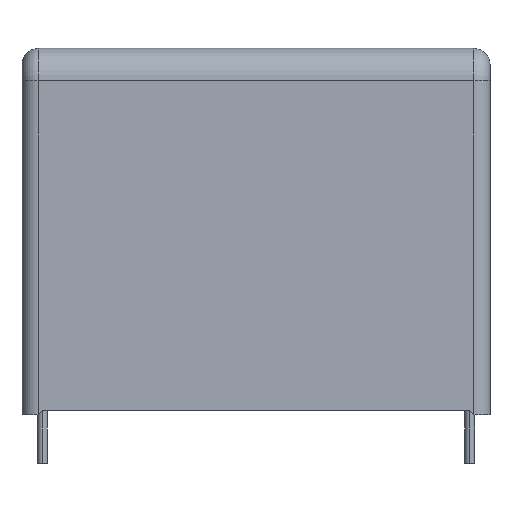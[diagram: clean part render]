
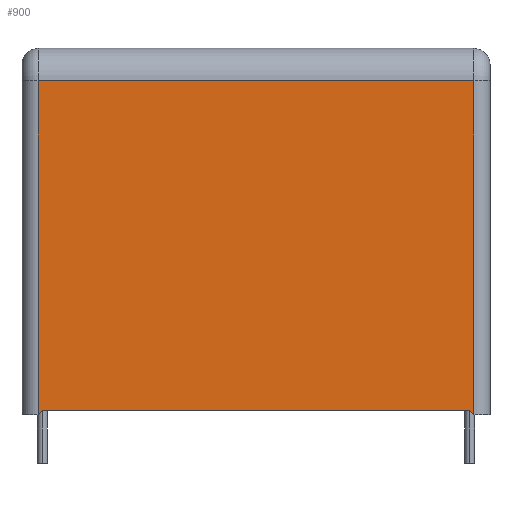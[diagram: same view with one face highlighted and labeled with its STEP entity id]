
A CAD part, top view. The second image highlights one B-rep face of the part: STEP entity #900.
In plain terms, the highlighted planar face has unit normal (0, 0, 1).
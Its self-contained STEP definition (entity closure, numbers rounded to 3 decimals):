
#32 = EDGE_CURVE ( 'NONE', #3887, #2382, #1922, .T. ) ;
#39 = EDGE_CURVE ( 'NONE', #2779, #3887, #1936, .T. ) ;
#40 = EDGE_CURVE ( 'NONE', #2779, #2541, #1904, .T. ) ;
#41 = CARTESIAN_POINT ( 'NONE',  ( -26.75, 41., 12.5 ) ) ;
#60 = EDGE_CURVE ( 'NONE', #2541, #2647, #1917, .T. ) ;
#61 = EDGE_CURVE ( 'NONE', #2647, #3470, #1883, .T. ) ;
#65 = EDGE_CURVE ( 'NONE', #2382, #3470, #1838, .T. ) ;
#411 = DIRECTION ( 'NONE',  ( -1., 0., 0. ) ) ;
#425 = DIRECTION ( 'NONE',  ( 0., 0., -1. ) ) ;
#445 = PLANE ( 'NONE',  #2757 ) ;
#486 = CARTESIAN_POINT ( 'NONE',  ( -28.75, 45., 12.5 ) ) ;
#849 = CARTESIAN_POINT ( 'NONE',  ( 26.75, 41., 12.5 ) ) ;
#900 = ADVANCED_FACE ( 'NONE', ( #3410 ), #445, .F. ) ;
#1047 = ORIENTED_EDGE ( 'NONE', *, *, #32, .F. ) ;
#1215 = ORIENTED_EDGE ( 'NONE', *, *, #39, .F. ) ;
#1484 = ORIENTED_EDGE ( 'NONE', *, *, #40, .T. ) ;
#1546 = ORIENTED_EDGE ( 'NONE', *, *, #60, .T. ) ;
#1562 = CARTESIAN_POINT ( 'NONE',  ( -26.25, 0.5, 12.5 ) ) ;
#1572 = ORIENTED_EDGE ( 'NONE', *, *, #61, .T. ) ;
#1763 = ORIENTED_EDGE ( 'NONE', *, *, #65, .F. ) ;
#1811 = VECTOR ( 'NONE', #1961, 1000. ) ;
#1835 = VECTOR ( 'NONE', #2067, 1000. ) ;
#1838 = LINE ( 'NONE', #1937, #1811 ) ;
#1843 = VECTOR ( 'NONE', #2317, 1000. ) ;
#1859 = VECTOR ( 'NONE', #2308, 1000. ) ;
#1883 = LINE ( 'NONE', #2074, #1835 ) ;
#1886 = VECTOR ( 'NONE', #2704, 1000. ) ;
#1904 = LINE ( 'NONE', #2401, #1859 ) ;
#1914 = VECTOR ( 'NONE', #3066, 1000. ) ;
#1917 = LINE ( 'NONE', #2233, #1843 ) ;
#1922 = LINE ( 'NONE', #2830, #1914 ) ;
#1936 = LINE ( 'NONE', #2515, #1886 ) ;
#1937 = CARTESIAN_POINT ( 'NONE',  ( -26.75, 0., 12.5 ) ) ;
#1961 = DIRECTION ( 'NONE',  ( -0.707, -0.707, 0. ) ) ;
#2067 = DIRECTION ( 'NONE',  ( 0., -1., 0. ) ) ;
#2074 = CARTESIAN_POINT ( 'NONE',  ( -26.75, 45., 12.5 ) ) ;
#2233 = CARTESIAN_POINT ( 'NONE',  ( -28.75, 41., 12.5 ) ) ;
#2308 = DIRECTION ( 'NONE',  ( 0., 1., 0. ) ) ;
#2317 = DIRECTION ( 'NONE',  ( -1., 0., 0. ) ) ;
#2382 = VERTEX_POINT ( 'NONE', #1562 ) ;
#2401 = CARTESIAN_POINT ( 'NONE',  ( 26.75, 45., 12.5 ) ) ;
#2515 = CARTESIAN_POINT ( 'NONE',  ( 26.25, 0.5, 12.5 ) ) ;
#2541 = VERTEX_POINT ( 'NONE', #849 ) ;
#2640 = EDGE_LOOP ( 'NONE', ( #1047, #1215, #1484, #1546, #1572, #1763 ) ) ;
#2647 = VERTEX_POINT ( 'NONE', #41 ) ;
#2704 = DIRECTION ( 'NONE',  ( -0.707, 0.707, 0. ) ) ;
#2757 = AXIS2_PLACEMENT_3D ( 'NONE', #486, #425, #411 ) ;
#2779 = VERTEX_POINT ( 'NONE', #3727 ) ;
#2830 = CARTESIAN_POINT ( 'NONE',  ( -26.25, 0.5, 12.5 ) ) ;
#3066 = DIRECTION ( 'NONE',  ( -1., 0., 0. ) ) ;
#3290 = CARTESIAN_POINT ( 'NONE',  ( -26.75, 0., 12.5 ) ) ;
#3410 = FACE_OUTER_BOUND ( 'NONE', #2640, .T. ) ;
#3470 = VERTEX_POINT ( 'NONE', #3290 ) ;
#3727 = CARTESIAN_POINT ( 'NONE',  ( 26.75, 0., 12.5 ) ) ;
#3887 = VERTEX_POINT ( 'NONE', #4152 ) ;
#4152 = CARTESIAN_POINT ( 'NONE',  ( 26.25, 0.5, 12.5 ) ) ;
